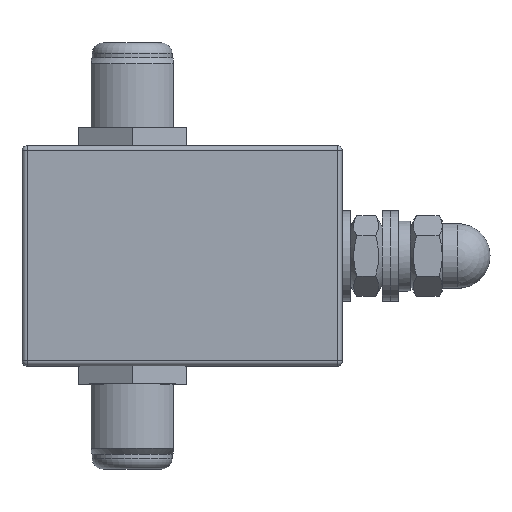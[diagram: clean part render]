
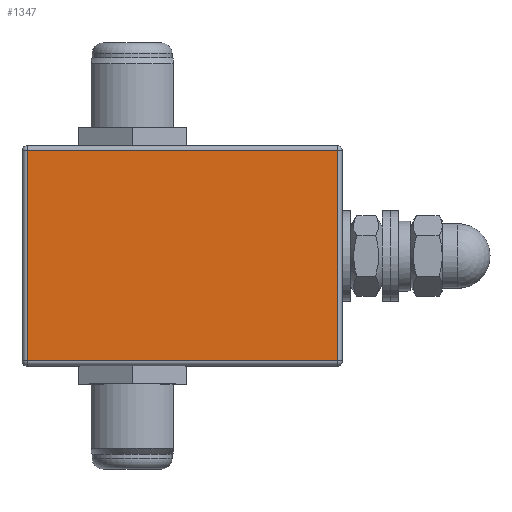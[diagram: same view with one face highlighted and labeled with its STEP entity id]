
A CAD part, top view. The second image highlights one B-rep face of the part: STEP entity #1347.
In plain terms, the highlighted planar face has unit normal (0, 0, 1).
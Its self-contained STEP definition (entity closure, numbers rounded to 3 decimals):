
#159=PLANE('',#1474);
#206=LINE('',#2111,#278);
#210=LINE('',#2124,#282);
#212=LINE('',#2127,#284);
#218=LINE('',#2136,#290);
#278=VECTOR('',#1683,21.);
#282=VECTOR('',#1699,31.);
#284=VECTOR('',#1703,21.);
#290=VECTOR('',#1715,31.);
#392=FACE_OUTER_BOUND('',#488,.T.);
#488=EDGE_LOOP('',(#1036,#1037,#1038,#1039));
#665=VERTEX_POINT('',#2068);
#671=VERTEX_POINT('',#2085);
#677=VERTEX_POINT('',#2102);
#680=VERTEX_POINT('',#2115);
#803=EDGE_CURVE('',#665,#677,#206,.T.);
#810=EDGE_CURVE('',#677,#680,#210,.T.);
#812=EDGE_CURVE('',#680,#671,#212,.T.);
#818=EDGE_CURVE('',#671,#665,#218,.T.);
#1036=ORIENTED_EDGE('',*,*,#803,.F.);
#1037=ORIENTED_EDGE('',*,*,#818,.F.);
#1038=ORIENTED_EDGE('',*,*,#812,.F.);
#1039=ORIENTED_EDGE('',*,*,#810,.F.);
#1347=ADVANCED_FACE('',(#392),#159,.T.);
#1474=AXIS2_PLACEMENT_3D('',#2146,#1729,#1730);
#1683=DIRECTION('',(0.,1.,0.));
#1699=DIRECTION('',(1.,0.,0.));
#1703=DIRECTION('',(0.,-1.,0.));
#1715=DIRECTION('',(-1.,0.,0.));
#1729=DIRECTION('center_axis',(0.,0.,1.));
#1730=DIRECTION('ref_axis',(1.,0.,0.));
#2068=CARTESIAN_POINT('',(-15.5,-10.5,8.5));
#2085=CARTESIAN_POINT('',(15.5,-10.5,8.5));
#2102=CARTESIAN_POINT('',(-15.5,10.5,8.5));
#2111=CARTESIAN_POINT('',(-15.5,5.5,8.5));
#2115=CARTESIAN_POINT('',(15.5,10.5,8.5));
#2124=CARTESIAN_POINT('',(8.,10.5,8.5));
#2127=CARTESIAN_POINT('',(15.5,-5.5,8.5));
#2136=CARTESIAN_POINT('',(-8.,-10.5,8.5));
#2146=CARTESIAN_POINT('Origin',(0.,0.,8.5));
